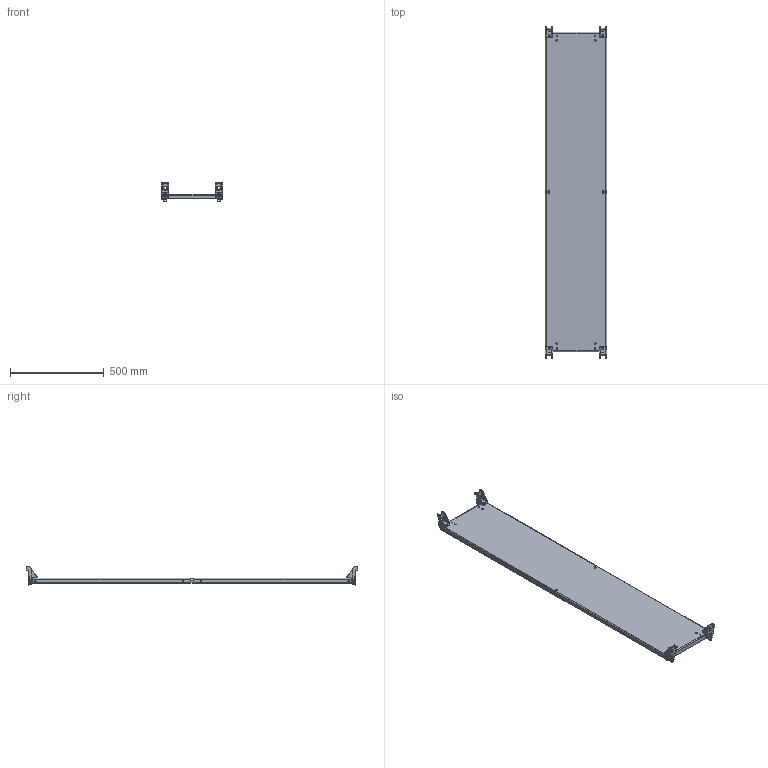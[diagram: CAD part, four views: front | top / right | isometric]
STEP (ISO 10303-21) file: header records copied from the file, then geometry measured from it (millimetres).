
FILE_DESCRIPTION (( 'STEP AP203' ), '1' );
FILE_NAME ('p2p184.STEP', '2018-02-09T17:30:46', ( '' ), ( '' ), 'SwSTEP 2.0', 'SolidWorks 2014', '' );
FILE_SCHEMA (( 'CONFIG_CONTROL_DESIGN' ));
Length unit declared in the file: inch
Products named in the file (4): p2p184; 89126780; 89120016; 89122652
Assembly tree (9 placements, depth 2):
  p2p184
    89126780
    89120016  x4
    89122652  x4
Bounding box: 328.19 x 1770.58 x 98.6 mm (x, y, z)
Volume: 2064300.2 mm3; surface area: 1570878.1 mm2
Topology: 9 solids, 9 shells, 1518 faces, 3852 edges, 2272 vertices
Faces by surface type: cylinder 680, plane 526, bspline 248, sphere 56, torus 8
Entity records: 17784 total; most frequent: CARTESIAN_POINT 4853, ORIENTED_EDGE 2748, DIRECTION 2388, EDGE_CURVE 1374, VECTOR 870, LINE 870, VERTEX_POINT 838, AXIS2_PLACEMENT_3D 759
